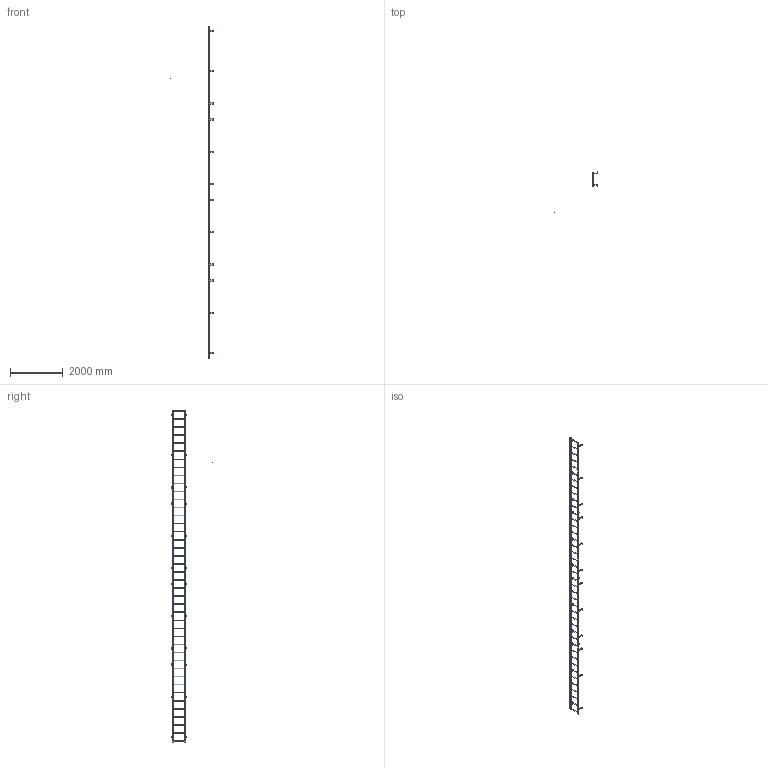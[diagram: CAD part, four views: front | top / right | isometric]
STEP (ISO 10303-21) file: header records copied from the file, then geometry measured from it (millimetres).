
FILE_DESCRIPTION(/* description */ (''),/* implementation_level */ '2;1');
FILE_NAME(/* name */ 'P:\MIKEL & KAREN\3570358 F42S SIMPLIFIED PART.stp',/* time_stamp */ '2018-07-02T16:04:23-04:00',/* author */ ('stephanie'),/* organization */ (''),/* preprocessor_version */ 'ST-DEVELOPER v16.1',/* originating_system */ 'Autodesk Inventor 2016',/* authorisation */ '');
FILE_SCHEMA (('AUTOMOTIVE_DESIGN { 1 0 10303 214 3 1 1 }'));
Length unit declared in the file: centimetre
Products named in the file (1): 3570358 F42S SIMPLIFIED PART
Bounding box: 1640.77 x 1519.64 x 12573 mm (x, y, z)
Volume: 22094193.6 mm3; surface area: 6638707.9 mm2
Topology: 45 solids, 45 shells, 685 faces, 1851 edges, 1232 vertices
Faces by surface type: plane 408, cylinder 277
Full cylindrical faces by diameter (mm): 0.254 x1, 14.287 x30, 19.05 x42, 22.225 x84
Entity records: 21015 total; most frequent: DIRECTION 3554, CARTESIAN_POINT 3384, ORIENTED_EDGE 3160, EDGE_CURVE 1580, AXIS2_PLACEMENT_3D 1288, VERTEX_POINT 1118, EDGE_LOOP 1070, LINE 978
